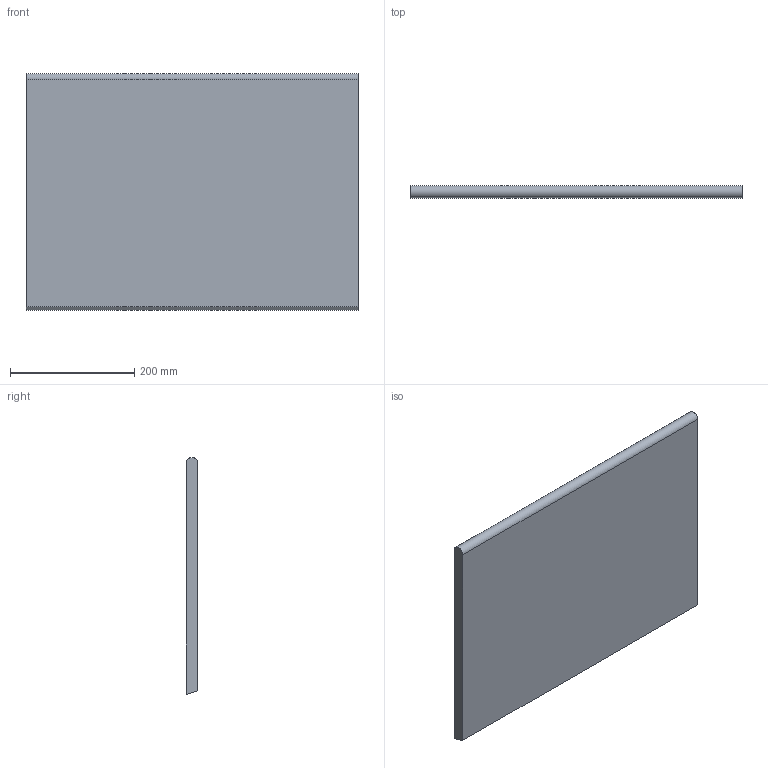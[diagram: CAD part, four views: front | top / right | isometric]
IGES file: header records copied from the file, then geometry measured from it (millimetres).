
Start section:  PTC IGES file: C:\Documents and Settings\Brad\Desktop\IGES\module_top_f ront.igs
Global section: file name: C:\Documents and Settings\Brad\Desktop\IGES\module_top_front.igs; native system: Brad by Parametric Technology Corporation; preprocessor: 2003250; author: Unknown; organization: PTC; date: 040521.142625; units: inch
Bounding box: 533.4 x 19.05 x 380.55 mm (x, y, z)
Volume: 3816198.4 mm3; surface area: 433413 mm2
Topology: 1 solids, 1 shells, 7 faces, 15 edges, 10 vertices
Faces by surface type: bspline 6, revolution 1
